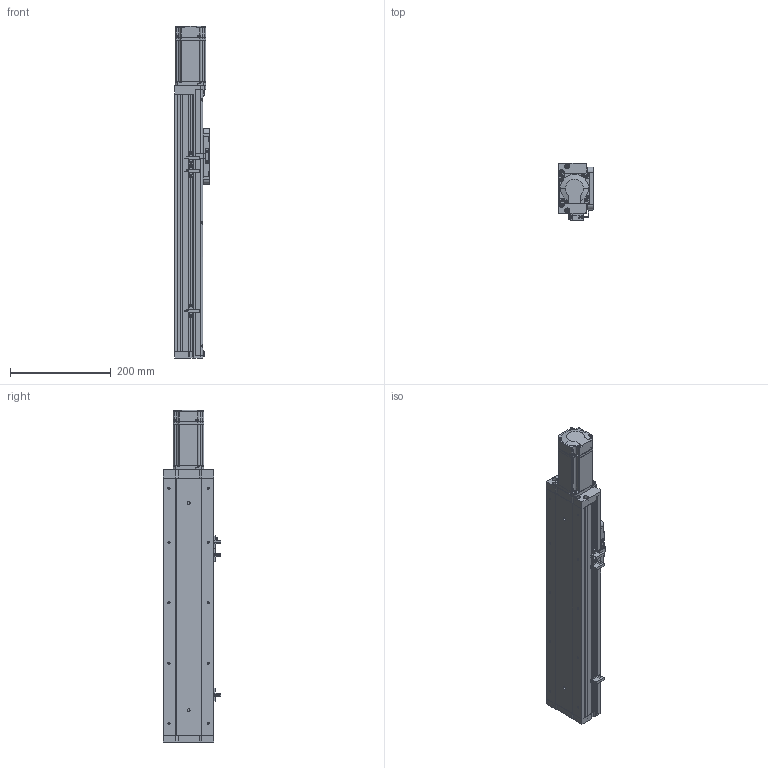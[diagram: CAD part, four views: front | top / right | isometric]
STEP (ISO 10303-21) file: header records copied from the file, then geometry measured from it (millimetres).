
FILE_DESCRIPTION (( 'STEP AP214' ), '1' );
FILE_NAME ('KSD100S-S300-MN-CR.STEP', '2019-09-02T08:57:14', ( '微软用户' ), ( '微软中国' ), 'SwSTEP 2.0', 'SolidWorks 2014', '' );
FILE_SCHEMA (( 'AUTOMOTIVE_DESIGN' ));
Length unit declared in the file: millimetre
Products named in the file (12): 100宽盖板压板不带电机座; 100宽盖板300行程不带电机座; 100宽侧板300行程不带电机座; 100宽底板全封闭300行程不带电机座; KSD100S-S300-MN-CR; MHMD042G1CA_2_03; U倰嫖萇EEㄜSX672; 感应片100宽全封闭; 100宽马达安装板全封闭不带电机座; 100宽端板全封闭; 100宽滚珠螺姆安装板1防护罩; 100宽滚珠螺姆安装板1
Assembly tree (15 placements, depth 2):
  KSD100S-S300-MN-CR
    100宽底板全封闭300行程不带电机座
    100宽侧板300行程不带电机座  x2
    100宽盖板300行程不带电机座
    100宽盖板压板不带电机座  x2
    100宽滚珠螺姆安装板1
    100宽滚珠螺姆安装板1防护罩
    100宽端板全封闭
    100宽马达安装板全封闭不带电机座
    感应片100宽全封闭
    U倰嫖萇EEㄜSX672  x3
    MHMD042G1CA_2_03
Bounding box: 70 x 113.7 x 660.5 mm (x, y, z)
Volume: 1143822.8 mm3; surface area: 519207 mm2
Topology: 14 solids, 15 shells, 1420 faces, 3974 edges, 2560 vertices
Faces by surface type: plane 652, cylinder 577, cone 173, bspline 18
Entity records: 48242 total; most frequent: CARTESIAN_POINT 7445, DIRECTION 6603, ORIENTED_EDGE 6176, EDGE_CURVE 3160, AXIS2_PLACEMENT_3D 2318, VERTEX_POINT 2098, LINE 1967, VECTOR 1967
